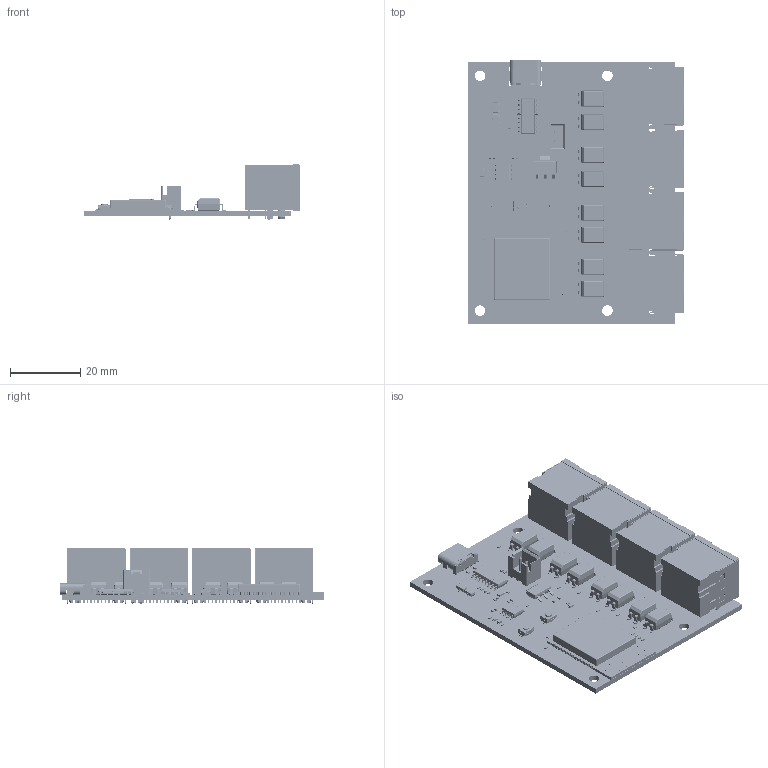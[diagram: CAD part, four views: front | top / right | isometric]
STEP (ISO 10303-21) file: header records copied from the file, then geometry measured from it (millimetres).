
FILE_DESCRIPTION(('Designed by EasyEDA Pro'),'2;1');
FILE_NAME('Open CASCADE Shape Model','2026-06-02T07:54:45',('Author'),( 'Open CASCADE'),'Open CASCADE STEP processor 7.8','Open CASCADE 7.8' ,'Unknown');
FILE_SCHEMA(('AUTOMOTIVE_DESIGN { 1 0 10303 214 1 1 1 1 }'));
Length unit declared in the file: millimetre
Products named in the file (40): EasyEDA PCB Model~5YFE; Board~5YFE; TopCopper~5YFE; BottomCopper~5YFE; TopFpcStiffener~5YFE; BottomFpcStiffener~5YFE; Q1~SOT-23-3_L3.0-W1.7-P0.95-LS2.9-BR~SOT-23-3L_
L2.9-W1.6-H1.1-LS2.8-P0.95~5YFE; SOT-23-3_L3.0-W1.7-P0.95-LS2.9-BR~SOT-23-3L_
L2.9-W1.6-H1.1-LS2.8-P0.95~5YFE; LED3~LED0603-FD~LED0603_Inf~5YFE; LED0603-FD~LED0603_Inf~5YFE; LED2~LED0603-RD_GREEN~LED0603-RD_GREEN~5YFE; LED0603-RD_GREEN~LED0603-RD_GREEN~5YFE; U84~SOT-583-8_L2.1-W1.6-P0.50-LS1.6-BL~SOT-583-8_
L2.1-W1.6-P0.50-LS1.6-BL~5YFE; SOT-583-8_L2.1-W1.6-P0.50-LS1.6-BL~SOT-583-8_
L2.1-W1.6-P0.50-LS1.6-BL~5YFE; U9~SOP-4_L6.5-W4.6-P2.54-LS9.6-TL~SOP-4_L6.5-W4.6-P2.54-LS9.6-TL~5YFE; SOP-4_L6.5-W4.6-P2.54-LS9.6-TL~SOP-4_L6.5-W4.6-P2.54-LS9.6-TL~5YFE; LED1~LED0603-RD_RED~LED0603-RD_RED~5YFE; LED0603-RD_RED~LED0603-RD_RED~5YFE; R3~R0402~R0402_L1.0-W0.5-H0.4~5YFE; R0402~R0402_L1.0-W0.5-H0.4~5YFE; C1~C0402~C0402_L1.0-W0.5-H0.5~5YFE; C0402~C0402_L1.0-W0.5-H0.5~5YFE; R1~R0402~R0402_L1.0-W0.5-H0.5~5YFE; R0402~R0402_L1.0-W0.5-H0.5~5YFE; U60~ESOP-8_L4.9-W3.9-P1.27-LS6.0-BL-EP-1~ESOP-8_
L4.9-W3.9-P1.27-LS6.0-BL-EP-1~5YFE; ESOP-8_L4.9-W3.9-P1.27-LS6.0-BL-EP-1~ESOP-8_
L4.9-W3.9-P1.27-LS6.0-BL-EP-1~5YFE; USB1~USB-C-SMD_TYPE-C-6PIN-2MD-073~USB-C-SMD_TYPE-C-6PIN-2MD-073~5YFE; USB-C-SMD_TYPE-C-6PIN-2MD-073~USB-C-SMD_TYPE-C-6PIN-2MD-073~5YFE; CN1~CONN-TH_B2B-XH-A-LF-SN~XH2.5-2A~5YFE; CONN-TH_B2B-XH-A-LF-SN~XH2.5-2A~5YFE; RJ1~RJ45-TH_HC-WK88-H16-DB~RJ45-TH_HC-WK88-H16-DB~5YFE; RJ45-TH_HC-WK88-H16-DB~RJ45-TH_HC-WK88-H16-DB~5YFE; U2~SOP-16_L10.0-W3.9-P1.27-LS6.0-BL~SOP-16_
L9.9-W3.9-H1.5-LS6.0-P1.27~5YFE; SOP-16_L10.0-W3.9-P1.27-LS6.0-BL~SOP-16_
L9.9-W3.9-H1.5-LS6.0-P1.27~5YFE; SW1~SW-SMD_L3.9-W3.0-P4.45~SW-SMD_L3.9-W2.9-H2.0-LS4.8~5YFE; SW-SMD_L3.9-W3.0-P4.45~SW-SMD_L3.9-W2.9-H2.0-LS4.8~5YFE; U45~SOT-223-3_L6.5-W3.4-P2.30-LS7.0-BR~SOT-223-4P_
L6.5-W3.5-H1.6-LS7.0-P2.30~5YFE; SOT-223-3_L6.5-W3.4-P2.30-LS7.0-BR~SOT-223-4P_
L6.5-W3.5-H1.6-LS7.0-P2.30~5YFE; U61~WIRELM-SMD_ESP32-S3-WROOM-1~WIRELM-SMD_ESP32-S3-WROOM-1~5YFE; WIRELM-SMD_ESP32-S3-WROOM-1~WIRELM-SMD_ESP32-S3-WROOM-1~5YFE
Assembly tree (84 placements, depth 3):
  EasyEDA PCB Model~5YFE
    Board~5YFE
    TopCopper~5YFE
    BottomCopper~5YFE
    TopFpcStiffener~5YFE
    BottomFpcStiffener~5YFE
    Q1~SOT-23-3_L3.0-W1.7-P0.95-LS2.9-BR~SOT-23-3L_
L2.9-W1.6-H1.1-LS2.8-P0.95~5YFE  x2
      SOT-23-3_L3.0-W1.7-P0.95-LS2.9-BR~SOT-23-3L_
L2.9-W1.6-H1.1-LS2.8-P0.95~5YFE
    LED3~LED0603-FD~LED0603_Inf~5YFE
      LED0603-FD~LED0603_Inf~5YFE
    LED2~LED0603-RD_GREEN~LED0603-RD_GREEN~5YFE
      LED0603-RD_GREEN~LED0603-RD_GREEN~5YFE
    U84~SOT-583-8_L2.1-W1.6-P0.50-LS1.6-BL~SOT-583-8_
L2.1-W1.6-P0.50-LS1.6-BL~5YFE
      SOT-583-8_L2.1-W1.6-P0.50-LS1.6-BL~SOT-583-8_
L2.1-W1.6-P0.50-LS1.6-BL~5YFE
    U9~SOP-4_L6.5-W4.6-P2.54-LS9.6-TL~SOP-4_L6.5-W4.6-P2.54-LS9.6-TL~5YFE  x8
      SOP-4_L6.5-W4.6-P2.54-LS9.6-TL~SOP-4_L6.5-W4.6-P2.54-LS9.6-TL~5YFE
    LED1~LED0603-RD_RED~LED0603-RD_RED~5YFE
      LED0603-RD_RED~LED0603-RD_RED~5YFE
    R3~R0402~R0402_L1.0-W0.5-H0.4~5YFE  x21
      R0402~R0402_L1.0-W0.5-H0.4~5YFE
    C1~C0402~C0402_L1.0-W0.5-H0.5~5YFE  x13
      C0402~C0402_L1.0-W0.5-H0.5~5YFE
    R1~R0402~R0402_L1.0-W0.5-H0.5~5YFE  x2
      R0402~R0402_L1.0-W0.5-H0.5~5YFE
    U60~ESOP-8_L4.9-W3.9-P1.27-LS6.0-BL-EP-1~ESOP-8_
L4.9-W3.9-P1.27-LS6.0-BL-EP-1~5YFE
      ESOP-8_L4.9-W3.9-P1.27-LS6.0-BL-EP-1~ESOP-8_
L4.9-W3.9-P1.27-LS6.0-BL-EP-1~5YFE
    USB1~USB-C-SMD_TYPE-C-6PIN-2MD-073~USB-C-SMD_TYPE-C-6PIN-2MD-073~5YFE
      USB-C-SMD_TYPE-C-6PIN-2MD-073~USB-C-SMD_TYPE-C-6PIN-2MD-073~5YFE
    CN1~CONN-TH_B2B-XH-A-LF-SN~XH2.5-2A~5YFE
      CONN-TH_B2B-XH-A-LF-SN~XH2.5-2A~5YFE
    RJ1~RJ45-TH_HC-WK88-H16-DB~RJ45-TH_HC-WK88-H16-DB~5YFE  x4
      RJ45-TH_HC-WK88-H16-DB~RJ45-TH_HC-WK88-H16-DB~5YFE
    U2~SOP-16_L10.0-W3.9-P1.27-LS6.0-BL~SOP-16_
L9.9-W3.9-H1.5-LS6.0-P1.27~5YFE
      SOP-16_L10.0-W3.9-P1.27-LS6.0-BL~SOP-16_
L9.9-W3.9-H1.5-LS6.0-P1.27~5YFE
    SW1~SW-SMD_L3.9-W3.0-P4.45~SW-SMD_L3.9-W2.9-H2.0-LS4.8~5YFE  x2
      SW-SMD_L3.9-W3.0-P4.45~SW-SMD_L3.9-W2.9-H2.0-LS4.8~5YFE
    U45~SOT-223-3_L6.5-W3.4-P2.30-LS7.0-BR~SOT-223-4P_
L6.5-W3.5-H1.6-LS7.0-P2.30~5YFE
      SOT-223-3_L6.5-W3.4-P2.30-LS7.0-BR~SOT-223-4P_
L6.5-W3.5-H1.6-LS7.0-P2.30~5YFE
    U61~WIRELM-SMD_ESP32-S3-WROOM-1~WIRELM-SMD_ESP32-S3-WROOM-1~5YFE
      WIRELM-SMD_ESP32-S3-WROOM-1~WIRELM-SMD_ESP32-S3-WROOM-1~5YFE
Bounding box: 61.15 x 75.21 x 15.8 mm (x, y, z)
Volume: 16518.5 mm3; surface area: 23957.9 mm2
Topology: 204 solids, 204 shells, 20895 faces, 55482 edges, 35998 vertices
Faces by surface type: plane 12774, bspline 5348, cylinder 2229, sphere 344, torus 164, cone 36
Entity records: 292180 total; most frequent: CARTESIAN_POINT 68827, ORIENTED_EDGE 36410, DIRECTION 28993, EDGE_CURVE 18205, LINE 12885, VECTOR 12885, VERTEX_POINT 11682, AXIS2_PLACEMENT_3D 8054
